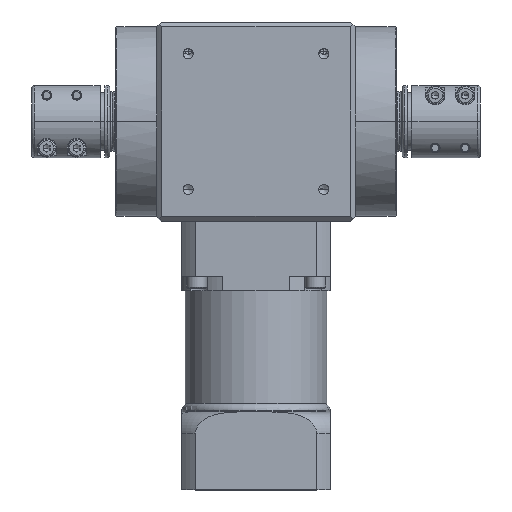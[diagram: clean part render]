
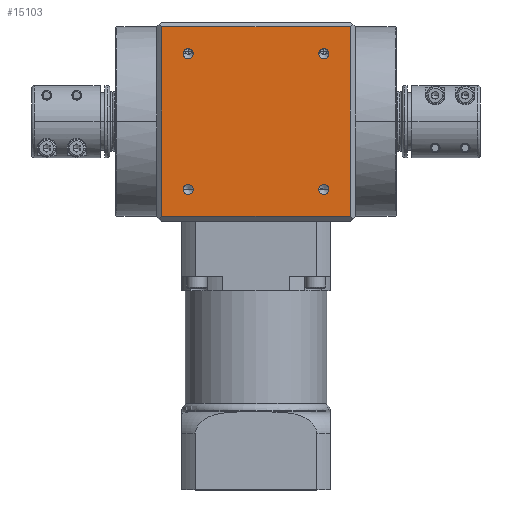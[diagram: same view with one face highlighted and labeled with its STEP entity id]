
A CAD part, top view. The second image highlights one B-rep face of the part: STEP entity #15103.
In plain terms, the highlighted planar face has unit normal (0, 0, 1).
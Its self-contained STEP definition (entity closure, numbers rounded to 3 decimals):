
#671 = CARTESIAN_POINT ( 'NONE',  ( 28.284, 163.984, 41.5 ) ) ;
#1519 = CIRCLE ( 'NONE', #91399, 2.1 ) ;
#1730 = EDGE_LOOP ( 'NONE', ( #6618, #91760, #18107, #95274 ) ) ;
#3290 = EDGE_CURVE ( 'NONE', #73116, #54260, #78671, .T. ) ;
#3648 = DIRECTION ( 'NONE',  ( 0., 0., 1. ) ) ;
#4058 = AXIS2_PLACEMENT_3D ( 'NONE', #28233, #79672, #35738 ) ;
#4142 = EDGE_CURVE ( 'NONE', #59567, #75158, #67913, .T. ) ;
#4363 = ORIENTED_EDGE ( 'NONE', *, *, #6261, .T. ) ;
#5945 = DIRECTION ( 'NONE',  ( 0., 0., -1. ) ) ;
#6261 = EDGE_CURVE ( 'NONE', #23075, #89358, #15511, .T. ) ;
#6618 = ORIENTED_EDGE ( 'NONE', *, *, #46649, .F. ) ;
#6929 = CIRCLE ( 'NONE', #66181, 2.1 ) ;
#8186 = DIRECTION ( 'NONE',  ( 0., -1., 0. ) ) ;
#9526 = DIRECTION ( 'NONE',  ( 0., 0., -1. ) ) ;
#10978 = FACE_BOUND ( 'NONE', #40667, .T. ) ;
#12255 = EDGE_CURVE ( 'NONE', #24175, #88209, #32354, .T. ) ;
#14964 = LINE ( 'NONE', #50449, #54500 ) ;
#15103 = ADVANCED_FACE ( 'NONE', ( #48293, #10978, #30933, #28603, #67713 ), #24294, .F. ) ;
#15511 = CIRCLE ( 'NONE', #22331, 2.1 ) ;
#17380 = CARTESIAN_POINT ( 'NONE',  ( -28.284, 161.884, 41.5 ) ) ;
#18085 = ORIENTED_EDGE ( 'NONE', *, *, #39535, .T. ) ;
#18107 = ORIENTED_EDGE ( 'NONE', *, *, #88038, .F. ) ;
#20277 = VERTEX_POINT ( 'NONE', #31051 ) ;
#20552 = DIRECTION ( 'NONE',  ( -1., 0., 0. ) ) ;
#20858 = CARTESIAN_POINT ( 'NONE',  ( 39.292, 175.2, 41.5 ) ) ;
#22331 = AXIS2_PLACEMENT_3D ( 'NONE', #671, #52755, #8186 ) ;
#23075 = VERTEX_POINT ( 'NONE', #58792 ) ;
#23179 = CARTESIAN_POINT ( 'NONE',  ( -28.284, 163.984, 41.5 ) ) ;
#23346 = LINE ( 'NONE', #41854, #79840 ) ;
#23653 = CARTESIAN_POINT ( 'NONE',  ( 28.284, 166.084, 41.5 ) ) ;
#24175 = VERTEX_POINT ( 'NONE', #87942 ) ;
#24294 = PLANE ( 'NONE',  #65476 ) ;
#25330 = CARTESIAN_POINT ( 'NONE',  ( -28.284, 107.416, 41.5 ) ) ;
#25480 = AXIS2_PLACEMENT_3D ( 'NONE', #80160, #79951, #79845 ) ;
#28003 = EDGE_CURVE ( 'NONE', #88209, #24175, #34807, .T. ) ;
#28233 = CARTESIAN_POINT ( 'NONE',  ( -28.284, 163.984, 41.5 ) ) ;
#28603 = FACE_BOUND ( 'NONE', #78261, .T. ) ;
#29005 = AXIS2_PLACEMENT_3D ( 'NONE', #48273, #3648, #55617 ) ;
#30723 = DIRECTION ( 'NONE',  ( 0., -1., 0. ) ) ;
#30839 = EDGE_LOOP ( 'NONE', ( #71881, #33921 ) ) ;
#30933 = FACE_BOUND ( 'NONE', #30839, .T. ) ;
#31051 = CARTESIAN_POINT ( 'NONE',  ( 39.292, 96.2, 41.5 ) ) ;
#31095 = CARTESIAN_POINT ( 'NONE',  ( 28.284, 107.416, 41.5 ) ) ;
#31231 = EDGE_CURVE ( 'NONE', #47499, #45721, #36858, .T. ) ;
#32354 = CIRCLE ( 'NONE', #29005, 2.1 ) ;
#32858 = DIRECTION ( 'NONE',  ( 0., -1., 0. ) ) ;
#33921 = ORIENTED_EDGE ( 'NONE', *, *, #4142, .F. ) ;
#34494 = ORIENTED_EDGE ( 'NONE', *, *, #31231, .T. ) ;
#34807 = CIRCLE ( 'NONE', #84982, 2.1 ) ;
#35400 = CARTESIAN_POINT ( 'NONE',  ( -28.284, 166.084, 41.5 ) ) ;
#35738 = DIRECTION ( 'NONE',  ( 0., -1., 0. ) ) ;
#35979 = CARTESIAN_POINT ( 'NONE',  ( 28.284, 109.516, 41.5 ) ) ;
#36858 = CIRCLE ( 'NONE', #4058, 2.1 ) ;
#38601 = DIRECTION ( 'NONE',  ( 0., -1., 0. ) ) ;
#39535 = EDGE_CURVE ( 'NONE', #45721, #47499, #46050, .T. ) ;
#40667 = EDGE_LOOP ( 'NONE', ( #61970, #83622 ) ) ;
#41854 = CARTESIAN_POINT ( 'NONE',  ( 39.292, 0., 41.5 ) ) ;
#42395 = CARTESIAN_POINT ( 'NONE',  ( 28.284, 105.316, 41.5 ) ) ;
#42440 = EDGE_LOOP ( 'NONE', ( #34494, #18085 ) ) ;
#44371 = DIRECTION ( 'NONE',  ( 0., 1., 0. ) ) ;
#44483 = CARTESIAN_POINT ( 'NONE',  ( -39.292, 177.2, 41.5 ) ) ;
#45721 = VERTEX_POINT ( 'NONE', #35400 ) ;
#45724 = EDGE_CURVE ( 'NONE', #89358, #23075, #6929, .T. ) ;
#46050 = CIRCLE ( 'NONE', #77561, 2.1 ) ;
#46649 = EDGE_CURVE ( 'NONE', #20277, #73116, #14964, .T. ) ;
#46766 = CARTESIAN_POINT ( 'NONE',  ( -39.292, 96.2, 41.5 ) ) ;
#47499 = VERTEX_POINT ( 'NONE', #17380 ) ;
#48273 = CARTESIAN_POINT ( 'NONE',  ( -28.284, 107.416, 41.5 ) ) ;
#48293 = FACE_OUTER_BOUND ( 'NONE', #1730, .T. ) ;
#49195 = DIRECTION ( 'NONE',  ( 0., -1., 0. ) ) ;
#50449 = CARTESIAN_POINT ( 'NONE',  ( -41.5, 96.2, 41.5 ) ) ;
#50540 = CARTESIAN_POINT ( 'NONE',  ( 28.284, 163.984, 41.5 ) ) ;
#52755 = DIRECTION ( 'NONE',  ( 0., 0., -1. ) ) ;
#54054 = CARTESIAN_POINT ( 'NONE',  ( -41.5, 177.2, 41.5 ) ) ;
#54260 = VERTEX_POINT ( 'NONE', #55558 ) ;
#54500 = VECTOR ( 'NONE', #20552, 1000. ) ;
#55558 = CARTESIAN_POINT ( 'NONE',  ( -39.292, 175.2, 41.5 ) ) ;
#55617 = DIRECTION ( 'NONE',  ( 0., -1., 0. ) ) ;
#57855 = DIRECTION ( 'NONE',  ( 0., -1., 0. ) ) ;
#58792 = CARTESIAN_POINT ( 'NONE',  ( 28.284, 161.884, 41.5 ) ) ;
#59567 = VERTEX_POINT ( 'NONE', #35979 ) ;
#61382 = DIRECTION ( 'NONE',  ( 0., 1., 0. ) ) ;
#61970 = ORIENTED_EDGE ( 'NONE', *, *, #28003, .F. ) ;
#65476 = AXIS2_PLACEMENT_3D ( 'NONE', #54054, #9526, #61382 ) ;
#66080 = ORIENTED_EDGE ( 'NONE', *, *, #45724, .T. ) ;
#66181 = AXIS2_PLACEMENT_3D ( 'NONE', #50540, #5945, #57855 ) ;
#67713 = FACE_BOUND ( 'NONE', #42440, .T. ) ;
#67913 = CIRCLE ( 'NONE', #25480, 2.1 ) ;
#69047 = CARTESIAN_POINT ( 'NONE',  ( 0., 175.2, 41.5 ) ) ;
#70625 = CARTESIAN_POINT ( 'NONE',  ( -28.284, 105.316, 41.5 ) ) ;
#71881 = ORIENTED_EDGE ( 'NONE', *, *, #73600, .F. ) ;
#73116 = VERTEX_POINT ( 'NONE', #46766 ) ;
#73600 = EDGE_CURVE ( 'NONE', #75158, #59567, #1519, .T. ) ;
#74069 = LINE ( 'NONE', #69047, #88985 ) ;
#74204 = VERTEX_POINT ( 'NONE', #20858 ) ;
#74707 = DIRECTION ( 'NONE',  ( 0., 0., -1. ) ) ;
#75158 = VERTEX_POINT ( 'NONE', #42395 ) ;
#76418 = DIRECTION ( 'NONE',  ( 1., 0., 0. ) ) ;
#76825 = DIRECTION ( 'NONE',  ( 0., 0., 1. ) ) ;
#77561 = AXIS2_PLACEMENT_3D ( 'NONE', #23179, #74707, #30723 ) ;
#78261 = EDGE_LOOP ( 'NONE', ( #4363, #66080 ) ) ;
#78671 = LINE ( 'NONE', #44483, #88952 ) ;
#79672 = DIRECTION ( 'NONE',  ( 0., 0., -1. ) ) ;
#79840 = VECTOR ( 'NONE', #49195, 1000. ) ;
#79845 = DIRECTION ( 'NONE',  ( 0., -1., 0. ) ) ;
#79951 = DIRECTION ( 'NONE',  ( 0., 0., 1. ) ) ;
#80160 = CARTESIAN_POINT ( 'NONE',  ( 28.284, 107.416, 41.5 ) ) ;
#82469 = DIRECTION ( 'NONE',  ( 0., 0., 1. ) ) ;
#83622 = ORIENTED_EDGE ( 'NONE', *, *, #12255, .F. ) ;
#84982 = AXIS2_PLACEMENT_3D ( 'NONE', #25330, #76825, #32858 ) ;
#87942 = CARTESIAN_POINT ( 'NONE',  ( -28.284, 109.516, 41.5 ) ) ;
#88038 = EDGE_CURVE ( 'NONE', #54260, #74204, #74069, .T. ) ;
#88209 = VERTEX_POINT ( 'NONE', #70625 ) ;
#88239 = EDGE_CURVE ( 'NONE', #74204, #20277, #23346, .T. ) ;
#88952 = VECTOR ( 'NONE', #44371, 1000. ) ;
#88985 = VECTOR ( 'NONE', #76418, 1000. ) ;
#89358 = VERTEX_POINT ( 'NONE', #23653 ) ;
#91399 = AXIS2_PLACEMENT_3D ( 'NONE', #31095, #82469, #38601 ) ;
#91760 = ORIENTED_EDGE ( 'NONE', *, *, #88239, .F. ) ;
#95274 = ORIENTED_EDGE ( 'NONE', *, *, #3290, .F. ) ;
